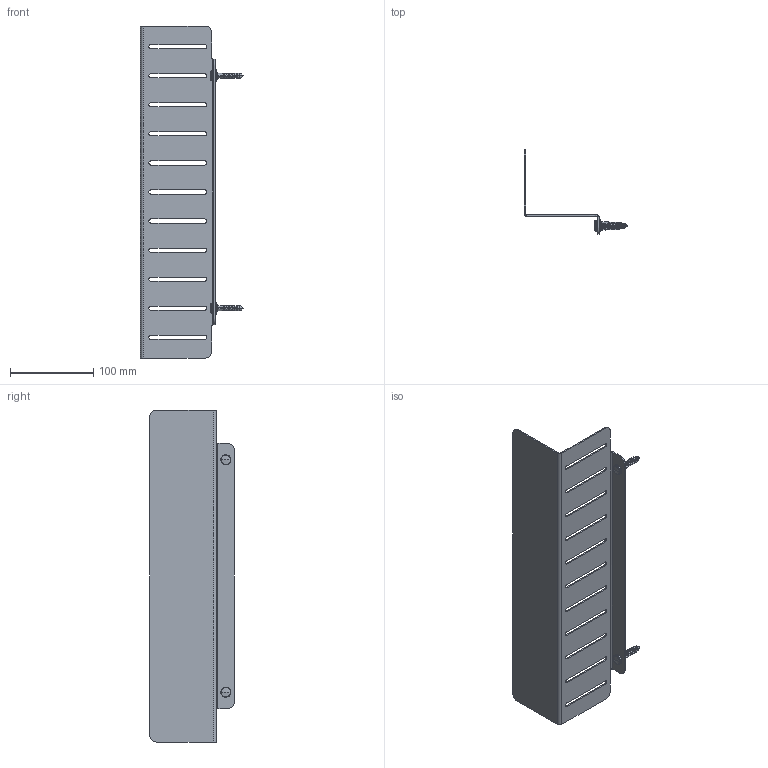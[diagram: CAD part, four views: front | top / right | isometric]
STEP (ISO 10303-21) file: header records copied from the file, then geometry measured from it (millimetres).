
FILE_DESCRIPTION((''),'2;1');
FILE_NAME('2024312-400_ASM','2024-03-12T14:31:02',('Administrator'),(''),'CREO PARAMETRIC BY PTC INC, 2019471','CREO PARAMETRIC BY PTC INC, 2019471','');
FILE_SCHEMA(('CONFIG_CONTROL_DESIGN'));
Length unit declared in the file: millimetre
Products named in the file (7): 2024312-4001; 19X1-5; 11123455; DZ8031-05AA; 11123456; DZ8031-04AA; 2024312-400_ASM
Assembly tree (11 placements, depth 2):
  2024312-400_ASM
    2024312-4001
    19X1-5  x2
    11123455  x2
    DZ8031-05AA  x2
    11123456  x2
    DZ8031-04AA  x2
Bounding box: 124.1 x 101.5 x 400 mm (x, y, z)
Volume: 106431.3 mm3; surface area: 148350.7 mm2
Topology: 11 solids, 11 shells, 622 faces, 1610 edges, 956 vertices
Faces by surface type: cylinder 278, plane 154, sphere 108, torus 44, bspline 30, cone 8
Entity records: 14345 total; most frequent: CARTESIAN_POINT 5931, ORIENTED_EDGE 1714, DIRECTION 1703, EDGE_CURVE 857, AXIS2_PLACEMENT_3D 651, VERTEX_POINT 550, EDGE_LOOP 411, VECTOR 401
